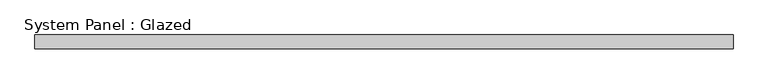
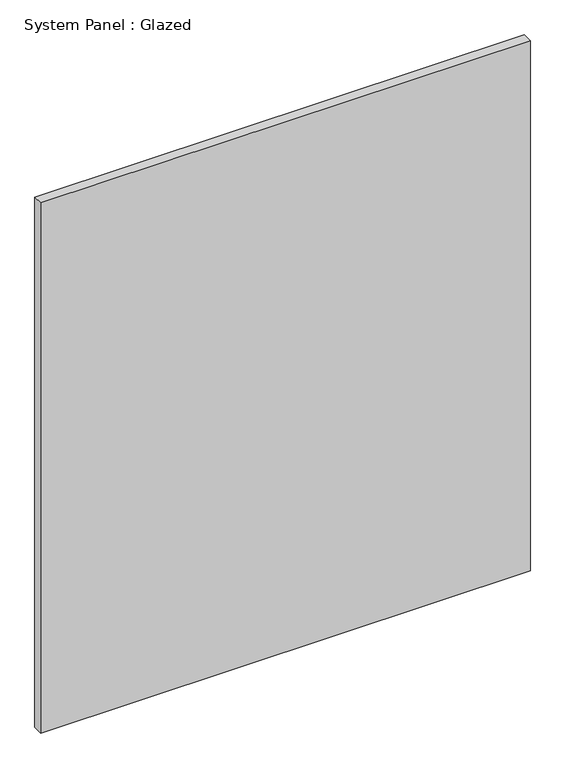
"""IFC4 building model written with IfcOpenShell, lengths in millimetres: plate geometry, System Panel : Glazed."""

import ifcopenshell
import ifcopenshell.guid

model = None  # the IFC model being written
_history = None  # IfcOwnerHistory: only IFC2X3 demands one
_inside = {}  # id of a spatial element -> (the spatial element, [elements in it])
_under = {}  # id of a project, library or spatial element -> (it, [spatial elements below it])
_declared = {}  # id of a project -> (the project, [libraries it declares])
_typed = {}  # id of a type object -> (the type object, [elements of that type])
_made_of = {}  # id of a material, layer set ... -> (it, [elements and type objects made of it])


def new_model(schema):
    """Start an empty IFC model of exactly this schema.

    Asked for "IFC4X3", IfcOpenShell would pick the latest addendum, in which some entities
    have other attributes; the version numbers below select the first issue.
    IFC2X3 requires an IfcOwnerHistory on every rooted entity: one is made here for all.
    """
    global model, _history
    if schema == "IFC4X3":
        model = ifcopenshell.file(schema_version=(4, 3, 0, 0))
    else:
        model = ifcopenshell.file(schema=schema)
    _inside.clear()
    _under.clear()
    _declared.clear()
    _typed.clear()
    _made_of.clear()
    _history = None
    if model.schema == "IFC2X3":
        org = make("IfcOrganization", Name="unknown")
        user = make(
            "IfcPersonAndOrganization",
            ThePerson=make("IfcPerson", FamilyName="unknown"),
            TheOrganization=org,
        )
        app = make(
            "IfcApplication",
            ApplicationDeveloper=org,
            Version="unknown",
            ApplicationFullName="unknown",
            ApplicationIdentifier="unknown",
        )
        _history = make(
            "IfcOwnerHistory",
            OwningUser=user,
            OwningApplication=app,
            ChangeAction="ADDED",
            CreationDate=0,
        )
    return model


def make(cls, **values):
    """One entity of the class cls with the attributes given. An attribute that is None is left unset."""
    return model.create_entity(
        cls, **{name: value for name, value in values.items() if value is not None}
    )


def rooted(cls, **values):
    """An entity with a GlobalId (a new one), such as an element, a storey or a relation."""
    return make(cls, GlobalId=ifcopenshell.guid.new(), OwnerHistory=_history, **values)


def si_unit(unit_type, name, prefix=None):
    """IfcSIUnit, for example si_unit("LENGTHUNIT", "METRE", prefix="MILLI")."""
    return make("IfcSIUnit", UnitType=unit_type, Prefix=prefix, Name=name)


def assignment(units):
    """IfcUnitAssignment: the units of a project."""
    return None if units is None else make("IfcUnitAssignment", Units=units)


def point(xyz):
    """IfcCartesianPoint."""
    return None if xyz is None else make("IfcCartesianPoint", Coordinates=xyz)


def direction(xyz):
    """IfcDirection."""
    return None if xyz is None else make("IfcDirection", DirectionRatios=xyz)


def frame(location, z_axis=None, x_axis=None):
    """IfcAxis2Placement3D, a coordinate frame: its origin and axes. An axis left out is left unset."""
    return make(
        "IfcAxis2Placement3D",
        Location=point(location),
        Axis=direction(z_axis),
        RefDirection=direction(x_axis),
    )


def origin():
    """The frame at (0, 0, 0) with its axes left unset."""
    return frame((0.0, 0.0, 0.0))


def origin_with_axes():
    """The frame at (0, 0, 0) with the z axis (0, 0, 1) and the x axis (1, 0, 0) written out."""
    return frame((0.0, 0.0, 0.0), z_axis=(0.0, 0.0, 1.0), x_axis=(1.0, 0.0, 0.0))


def place(relative_to, where):
    """IfcLocalPlacement: puts the frame where relative to a parent placement (None: the world)."""
    return make(
        "IfcLocalPlacement", PlacementRelTo=relative_to, RelativePlacement=where
    )


def context(
    kind, dimensions, precision=None, world=None, true_north=None, identifier=None
):
    """IfcGeometricRepresentationContext, for example the 3D "Model" context."""
    return make(
        "IfcGeometricRepresentationContext",
        ContextIdentifier=identifier,
        ContextType=kind,
        CoordinateSpaceDimension=dimensions,
        Precision=precision,
        WorldCoordinateSystem=world,
        TrueNorth=true_north,
    )


def project(units=None, contexts=None):
    """IfcProject with its units and contexts."""
    return rooted(
        "IfcProject",
        Name="project",
        RepresentationContexts=contexts,
        UnitsInContext=assignment(units),
    )


def spatial(cls, under=None, at=None, **own):
    """A site, building, storey or space (cls), placed at a placement, below another one or the project."""
    s = rooted(cls, ObjectPlacement=at, **own)
    if under is not None:
        _under.setdefault(under.id(), (under, []))[1].append(s)
    return s


def polyline(points):
    """IfcPolyline through the points."""
    return make("IfcPolyline", Points=[point(p) for p in points])


def outline(outer, holes=None, kind="AREA"):
    """IfcArbitraryClosedProfileDef: a profile drawn as a closed curve; with holes, ...WithVoids."""
    if holes is None:
        return make("IfcArbitraryClosedProfileDef", ProfileType=kind, OuterCurve=outer)
    return make(
        "IfcArbitraryProfileDefWithVoids",
        ProfileType=kind,
        OuterCurve=outer,
        InnerCurves=holes,
    )


def extrude(swept, where, along, depth):
    """IfcExtrudedAreaSolid: the profile swept, set in the frame where, extruded along a direction by depth."""
    return make(
        "IfcExtrudedAreaSolid",
        SweptArea=swept,
        Position=where,
        ExtrudedDirection=direction(along),
        Depth=depth,
    )


def shape(context_of_items, identifier, shape_type, items):
    """IfcShapeRepresentation: the items that make up one representation, for example the "Body"."""
    return make(
        "IfcShapeRepresentation",
        ContextOfItems=context_of_items,
        RepresentationIdentifier=identifier,
        RepresentationType=shape_type,
        Items=items,
    )


def source(mapping_origin, context_of_items, identifier, shape_type, items):
    """IfcRepresentationMap: a shape defined once, which mapped items show again and again."""
    return make(
        "IfcRepresentationMap",
        MappingOrigin=mapping_origin,
        MappedRepresentation=shape(context_of_items, identifier, shape_type, items),
    )


def transform(
    local_origin,
    x_axis=None,
    y_axis=None,
    z_axis=None,
    scale=None,
    scale2=None,
    scale3=None,
    uniform=True,
):
    """IfcCartesianTransformationOperator3D, or its non-uniform kind. x_axis, y_axis, z_axis: its Axis1, 2, 3."""
    if uniform:
        return make(
            "IfcCartesianTransformationOperator3D",
            Axis1=direction(x_axis),
            Axis2=direction(y_axis),
            LocalOrigin=point(local_origin),
            Scale=scale,
            Axis3=direction(z_axis),
        )
    return make(
        "IfcCartesianTransformationOperator3DnonUniform",
        Axis1=direction(x_axis),
        Axis2=direction(y_axis),
        LocalOrigin=point(local_origin),
        Scale=scale,
        Axis3=direction(z_axis),
        Scale2=scale2,
        Scale3=scale3,
    )


def mapped(mapping_source, mapping_target):
    """IfcMappedItem: shows the shape of a source again, moved by a transform."""
    return make(
        "IfcMappedItem", MappingSource=mapping_source, MappingTarget=mapping_target
    )


def made_of(thing, what):
    """Note that an element or type object is made of a material, layer set ...; save() writes the relation."""
    if what is not None:
        _made_of.setdefault(what.id(), (what, []))[1].append(thing)
    return thing


def element(
    cls,
    number,
    at=None,
    inside=None,
    cuts=None,
    type_object=None,
    material=None,
    context=None,
    identifier="Body",
    shape_type=None,
    held_by="IfcProductDefinitionShape",
    body=None,
    shapes=None,
    **own,
):
    """One element of the class cls, such as IfcWall. Its Tag is "e" and its number.

    at: its placement. inside: the storey or other place that contains it. cuts: it is an
    opening in that element (IfcRelVoidsElement). A single representation is given by context,
    identifier, shape_type and body (its items); several are given by shapes. held_by: the class
    of the entity that holds the representations. save() writes the other relations.
    """
    e = rooted(cls, Tag="e%d" % number, ObjectPlacement=at, **own)
    if body is not None:
        shapes = [shape(context, identifier, shape_type, body)]
    if shapes is not None:
        e.Representation = make(held_by, Representations=shapes)
    if inside is not None:
        _inside.setdefault(inside.id(), (inside, []))[1].append(e)
    if cuts is not None:
        rooted(
            "IfcRelVoidsElement", RelatingBuildingElement=cuts, RelatedOpeningElement=e
        )
    if type_object is not None:
        _typed.setdefault(type_object.id(), (type_object, []))[1].append(e)
    return made_of(e, material)


def aggregate(whole, parts):
    """IfcRelAggregates: a whole, such as a stair, and the parts it consists of."""
    return rooted("IfcRelAggregates", RelatingObject=whole, RelatedObjects=parts)


def save(model, path):
    """Write the relations noted so far, then the file.

    IfcRelAggregates (storeys below a building ...), IfcRelContainedInSpatialStructure (elements
    in a storey), IfcRelDefinesByType, IfcRelAssociatesMaterial and IfcRelDeclares: one each for
    every whole, place, type object, material and project.
    """
    for whole, parts in _under.values():
        aggregate(whole, parts)
    for where, things in _inside.values():
        rooted(
            "IfcRelContainedInSpatialStructure",
            RelatedElements=things,
            RelatingStructure=where,
        )
    for kind, things in _typed.values():
        rooted("IfcRelDefinesByType", RelatedObjects=things, RelatingType=kind)
    for what, things in _made_of.values():
        rooted("IfcRelAssociatesMaterial", RelatedObjects=things, RelatingMaterial=what)
    for by, libraries in _declared.values():
        rooted("IfcRelDeclares", RelatingContext=by, RelatedDefinitions=libraries)
    model.write(path)


def system_panel_glazed_f266ac1c(model_context):
    return source(origin(), model_context, "Body", "SweptSolid", [
        extrude(outline(polyline([(638.1750001, -44.45), (-638.1750001, -44.45), (-638.1750001, -19.05), (638.1750001, -19.05), (638.1750001, -44.45)])), origin_with_axes(), (0.0, 0.0, 1.0), 1460.5),
    ])


if __name__ == "__main__":
    model = new_model("IFC4")
    model_context = context("Model", 3, world=origin())
    ifc_project = project(units=[si_unit("LENGTHUNIT", "METRE", prefix="MILLI")], contexts=[model_context])
    site = spatial("IfcSite", under=ifc_project)
    building = spatial("IfcBuilding", under=site)
    placement = place(None, origin())
    system_panel_glazed_shape = system_panel_glazed_f266ac1c(model_context)
    element("IfcPlate", 1, ObjectType="System Panel : Glazed", at=placement, inside=building, context=model_context, shape_type="MappedRepresentation", body=[
        mapped(system_panel_glazed_shape, transform((0.0, 0.0, 0.0), x_axis=(1.0, 0.0, 0.0), y_axis=(0.0, 1.0, 0.0), z_axis=(0.0, 0.0, 1.0))),
    ])
    save(model, "model.ifc")
